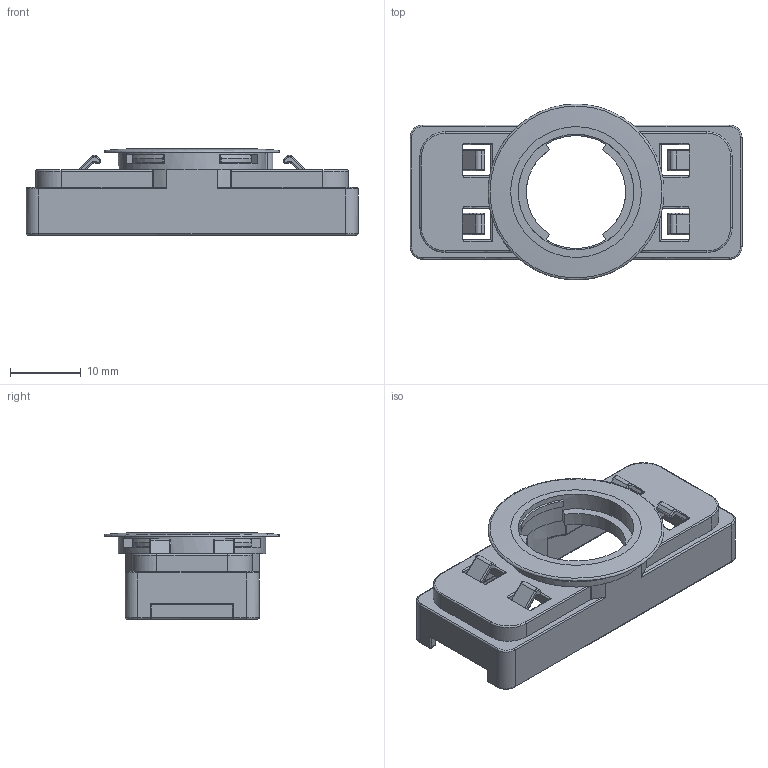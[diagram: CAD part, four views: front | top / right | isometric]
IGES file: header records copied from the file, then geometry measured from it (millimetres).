
Global section: file name: 15013342_00; native system: Autodesk Inventor 2017; preprocessor: unknown; author: muell; date: 20190529.120126; units: millimetre
Bounding box: 46.8 x 24.78 x 12.12 mm (x, y, z)
Volume: 2598.4 mm3; surface area: 4486.8 mm2
Topology: 1 solids, 1 shells, 464 faces, 1205 edges, 732 vertices
Faces by surface type: bspline 464
